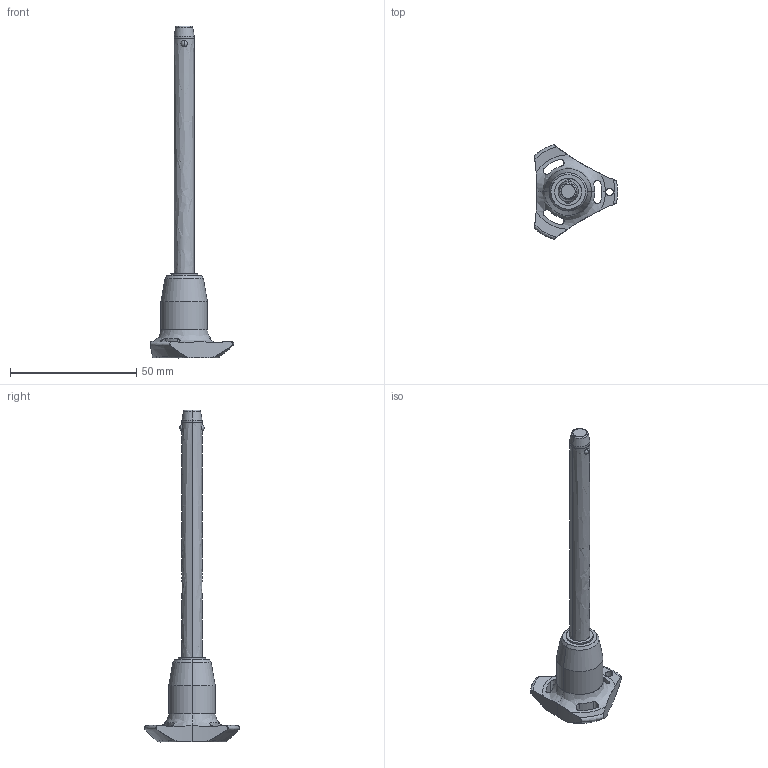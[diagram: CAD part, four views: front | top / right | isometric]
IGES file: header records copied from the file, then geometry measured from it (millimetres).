
Start section: SolidWorks IGES file using analytic representation for surfaces
Global section: file name: C:\Users\ianosborn\Desktop\QR1716_v2\QR1716_v2_20251114_IGES\QR1716.M08-090-T.igs; native system: SolidWorks 2019; preprocessor: SolidWorks 2019; author: IanOsborn; date: 251113.102850; units: millimetre
Bounding box: 33 x 37.51 x 131.5 mm (x, y, z)
Surface area: 6245.9 mm2 (no closed solid volume)
Topology: 0 solids, 0 shells, 68 faces, 1344 edges, 1337 vertices
Faces by surface type: revolution 52, bspline 16
